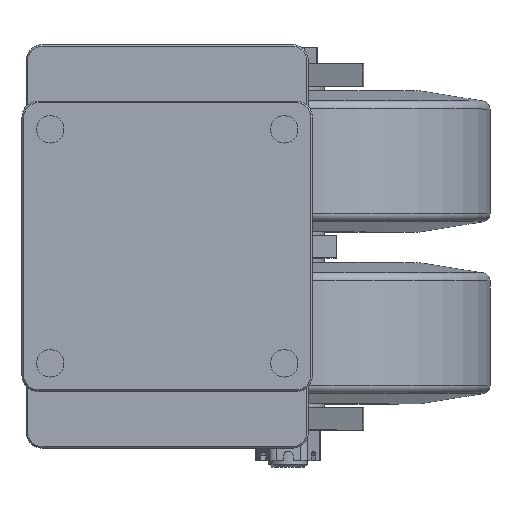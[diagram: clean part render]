
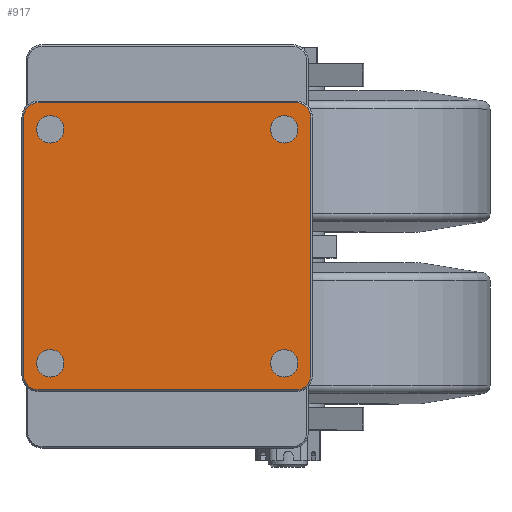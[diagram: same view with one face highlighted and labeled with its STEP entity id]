
A CAD part, top view. The second image highlights one B-rep face of the part: STEP entity #917.
In plain terms, the highlighted planar face has unit normal (0, 0, 1).
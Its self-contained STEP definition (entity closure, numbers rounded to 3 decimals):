
#520=PLANE('',#7447);
#611=FACE_BOUND('',#1798,.T.);
#612=FACE_BOUND('',#1799,.T.);
#613=FACE_BOUND('',#1800,.T.);
#614=FACE_BOUND('',#1801,.T.);
#615=FACE_BOUND('',#1802,.T.);
#917=ADVANCED_FACE('',(#611,#612,#613,#614,#615),#520,.T.);
#1798=EDGE_LOOP('',(#3680,#3681,#3682,#3683,#3684,#3685,#3686,#3687));
#1799=EDGE_LOOP('',(#3688,#3689));
#1800=EDGE_LOOP('',(#3690,#3691));
#1801=EDGE_LOOP('',(#3692,#3693));
#1802=EDGE_LOOP('',(#3694,#3695));
#2063=CIRCLE('',#7398,8.5);
#2065=CIRCLE('',#7401,8.5);
#2067=CIRCLE('',#7404,8.5);
#2069=CIRCLE('',#7407,8.5);
#2071=CIRCLE('',#7410,8.5);
#2073=CIRCLE('',#7413,8.5);
#2075=CIRCLE('',#7416,8.5);
#2077=CIRCLE('',#7419,8.5);
#2080=CIRCLE('',#7424,9.);
#2087=CIRCLE('',#7439,9.);
#2088=CIRCLE('',#7442,9.);
#2089=CIRCLE('',#7445,9.);
#3680=ORIENTED_EDGE('',*,*,#5744,.F.);
#3681=ORIENTED_EDGE('',*,*,#5742,.F.);
#3682=ORIENTED_EDGE('',*,*,#5740,.F.);
#3683=ORIENTED_EDGE('',*,*,#5738,.F.);
#3684=ORIENTED_EDGE('',*,*,#5746,.F.);
#3685=ORIENTED_EDGE('',*,*,#5715,.F.);
#3686=ORIENTED_EDGE('',*,*,#5718,.F.);
#3687=ORIENTED_EDGE('',*,*,#5745,.F.);
#3688=ORIENTED_EDGE('',*,*,#5706,.F.);
#3689=ORIENTED_EDGE('',*,*,#5708,.F.);
#3690=ORIENTED_EDGE('',*,*,#5700,.F.);
#3691=ORIENTED_EDGE('',*,*,#5702,.F.);
#3692=ORIENTED_EDGE('',*,*,#5694,.F.);
#3693=ORIENTED_EDGE('',*,*,#5696,.F.);
#3694=ORIENTED_EDGE('',*,*,#5688,.F.);
#3695=ORIENTED_EDGE('',*,*,#5690,.F.);
#4775=VERTEX_POINT('',#11880);
#4777=VERTEX_POINT('',#11884);
#4779=VERTEX_POINT('',#11892);
#4781=VERTEX_POINT('',#11896);
#4783=VERTEX_POINT('',#11904);
#4785=VERTEX_POINT('',#11908);
#4787=VERTEX_POINT('',#11916);
#4789=VERTEX_POINT('',#11920);
#4794=VERTEX_POINT('',#11936);
#4795=VERTEX_POINT('',#11938);
#4797=VERTEX_POINT('',#11944);
#4809=VERTEX_POINT('',#11982);
#4810=VERTEX_POINT('',#11984);
#4811=VERTEX_POINT('',#11988);
#4812=VERTEX_POINT('',#11992);
#4813=VERTEX_POINT('',#11996);
#5688=EDGE_CURVE('',#4777,#4775,#2063,.T.);
#5690=EDGE_CURVE('',#4775,#4777,#2065,.T.);
#5694=EDGE_CURVE('',#4781,#4779,#2067,.T.);
#5696=EDGE_CURVE('',#4779,#4781,#2069,.T.);
#5700=EDGE_CURVE('',#4785,#4783,#2071,.T.);
#5702=EDGE_CURVE('',#4783,#4785,#2073,.T.);
#5706=EDGE_CURVE('',#4789,#4787,#2075,.T.);
#5708=EDGE_CURVE('',#4787,#4789,#2077,.T.);
#5715=EDGE_CURVE('',#4795,#4794,#2080,.T.);
#5718=EDGE_CURVE('',#4797,#4795,#6360,.T.);
#5738=EDGE_CURVE('',#4810,#4809,#2087,.T.);
#5740=EDGE_CURVE('',#4809,#4811,#6375,.T.);
#5742=EDGE_CURVE('',#4811,#4812,#2088,.T.);
#5744=EDGE_CURVE('',#4812,#4813,#6378,.T.);
#5745=EDGE_CURVE('',#4813,#4797,#2089,.T.);
#5746=EDGE_CURVE('',#4794,#4810,#6379,.T.);
#6360=LINE('',#11945,#6873);
#6375=LINE('',#11989,#6888);
#6378=LINE('',#11997,#6891);
#6379=LINE('',#12001,#6892);
#6873=VECTOR('',#8855,1.);
#6888=VECTOR('',#8900,1.);
#6891=VECTOR('',#8909,1.);
#6892=VECTOR('',#8916,1.);
#7398=AXIS2_PLACEMENT_3D('',#11885,#8787,#8788);
#7401=AXIS2_PLACEMENT_3D('',#11888,#8793,#8794);
#7404=AXIS2_PLACEMENT_3D('',#11897,#8801,#8802);
#7407=AXIS2_PLACEMENT_3D('',#11900,#8807,#8808);
#7410=AXIS2_PLACEMENT_3D('',#11909,#8815,#8816);
#7413=AXIS2_PLACEMENT_3D('',#11912,#8821,#8822);
#7416=AXIS2_PLACEMENT_3D('',#11921,#8829,#8830);
#7419=AXIS2_PLACEMENT_3D('',#11924,#8835,#8836);
#7424=AXIS2_PLACEMENT_3D('',#11939,#8849,#8850);
#7439=AXIS2_PLACEMENT_3D('',#11985,#8895,#8896);
#7442=AXIS2_PLACEMENT_3D('',#11993,#8904,#8905);
#7445=AXIS2_PLACEMENT_3D('',#11999,#8912,#8913);
#7447=AXIS2_PLACEMENT_3D('',#12002,#8917,#8918);
#8787=DIRECTION('',(0.,0.,1.));
#8788=DIRECTION('',(-1.,0.,0.));
#8793=DIRECTION('',(0.,0.,1.));
#8794=DIRECTION('',(1.,0.,0.));
#8801=DIRECTION('',(0.,0.,1.));
#8802=DIRECTION('',(-1.,0.,0.));
#8807=DIRECTION('',(0.,0.,1.));
#8808=DIRECTION('',(1.,0.,0.));
#8815=DIRECTION('',(0.,0.,1.));
#8816=DIRECTION('',(-1.,0.,0.));
#8821=DIRECTION('',(0.,0.,1.));
#8822=DIRECTION('',(1.,0.,0.));
#8829=DIRECTION('',(0.,0.,1.));
#8830=DIRECTION('',(-1.,0.,0.));
#8835=DIRECTION('',(0.,0.,1.));
#8836=DIRECTION('',(1.,0.,0.));
#8849=DIRECTION('',(0.,0.,-1.));
#8850=DIRECTION('',(0.,-1.,0.));
#8855=DIRECTION('',(-1.,0.,0.));
#8895=DIRECTION('',(0.,0.,-1.));
#8896=DIRECTION('',(-1.,0.,0.));
#8900=DIRECTION('',(1.,0.,0.));
#8904=DIRECTION('',(0.,0.,-1.));
#8905=DIRECTION('',(0.,1.,0.));
#8909=DIRECTION('',(0.,-1.,0.));
#8912=DIRECTION('',(0.,0.,-1.));
#8913=DIRECTION('',(1.,0.,0.));
#8916=DIRECTION('',(0.,1.,0.));
#8917=DIRECTION('',(0.,0.,1.));
#8918=DIRECTION('',(1.,0.,0.));
#11880=CARTESIAN_POINT('',(-64.,72.5,0.));
#11884=CARTESIAN_POINT('',(-81.,72.5,0.));
#11885=CARTESIAN_POINT('',(-72.5,72.5,0.));
#11888=CARTESIAN_POINT('',(-72.5,72.5,0.));
#11892=CARTESIAN_POINT('',(81.,-72.5,0.));
#11896=CARTESIAN_POINT('',(64.,-72.5,0.));
#11897=CARTESIAN_POINT('',(72.5,-72.5,0.));
#11900=CARTESIAN_POINT('',(72.5,-72.5,0.));
#11904=CARTESIAN_POINT('',(81.,72.5,0.));
#11908=CARTESIAN_POINT('',(64.,72.5,0.));
#11909=CARTESIAN_POINT('',(72.5,72.5,0.));
#11912=CARTESIAN_POINT('',(72.5,72.5,0.));
#11916=CARTESIAN_POINT('',(-64.,-72.5,0.));
#11920=CARTESIAN_POINT('',(-81.,-72.5,0.));
#11921=CARTESIAN_POINT('',(-72.5,-72.5,0.));
#11924=CARTESIAN_POINT('',(-72.5,-72.5,0.));
#11936=CARTESIAN_POINT('',(-89.,-80.,0.));
#11938=CARTESIAN_POINT('',(-80.,-89.,0.));
#11939=CARTESIAN_POINT('',(-80.,-80.,0.));
#11944=CARTESIAN_POINT('',(80.,-89.,0.));
#11945=CARTESIAN_POINT('',(80.,-89.,0.));
#11982=CARTESIAN_POINT('',(-80.,89.,0.));
#11984=CARTESIAN_POINT('',(-89.,80.,0.));
#11985=CARTESIAN_POINT('',(-80.,80.,0.));
#11988=CARTESIAN_POINT('',(80.,89.,0.));
#11989=CARTESIAN_POINT('',(-80.,89.,0.));
#11992=CARTESIAN_POINT('',(89.,80.,0.));
#11993=CARTESIAN_POINT('',(80.,80.,0.));
#11996=CARTESIAN_POINT('',(89.,-80.,0.));
#11997=CARTESIAN_POINT('',(89.,80.,0.));
#11999=CARTESIAN_POINT('',(80.,-80.,0.));
#12001=CARTESIAN_POINT('',(-89.,-80.,0.));
#12002=CARTESIAN_POINT('',(0.,0.,0.));
